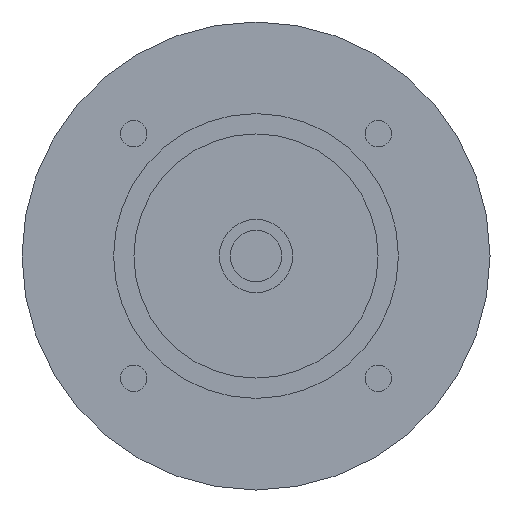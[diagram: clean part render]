
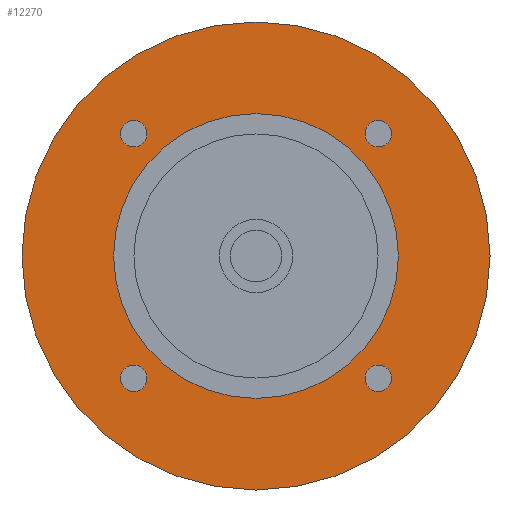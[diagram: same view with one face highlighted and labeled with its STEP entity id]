
A CAD part, left-side view. The second image highlights one B-rep face of the part: STEP entity #12270.
In plain terms, the highlighted planar face has unit normal (-1, 0, 0) as drawn and (0, 0, -1) by its records, which use the part's own axes.
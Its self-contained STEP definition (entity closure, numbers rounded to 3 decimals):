
#9110=CARTESIAN_POINT('',(57.5,0.,-47.001));
#9120=VERTEX_POINT('',#9110);
#9150=CARTESIAN_POINT('',(0.,0.,-47.001));
#9160=DIRECTION('',(0.,0.,-1.));
#9170=DIRECTION('',(0.,-1.,0.));
#9180=AXIS2_PLACEMENT_3D('',#9150,#9160,#9170);
#9190=CIRCLE('',#9180,57.5);
#9200=CARTESIAN_POINT('',(0.,-57.5,-47.001));
#9210=VERTEX_POINT('',#9200);
#9220=EDGE_CURVE('',#9120,#9210,#9190,.T.);
#9240=CARTESIAN_POINT('',(-57.5,0.,-47.001));
#9250=VERTEX_POINT('',#9240);
#9260=EDGE_CURVE('',#9210,#9250,#9190,.T.);
#11240=CARTESIAN_POINT('',(-26.802,30.052,-47.001));
#11250=VERTEX_POINT('',#11240);
#11280=CARTESIAN_POINT('',(-30.052,30.052,-47.001));
#11290=DIRECTION('',(0.,0.,-1.));
#11300=DIRECTION('',(-1.,0.,0.));
#11310=AXIS2_PLACEMENT_3D('',#11280,#11290,#11300);
#11320=CIRCLE('',#11310,3.25);
#11330=CARTESIAN_POINT('',(-33.302,30.052,-47.001));
#11340=VERTEX_POINT('',#11330);
#11350=EDGE_CURVE('',#11340,#11250,#11320,.T.);
#11470=CARTESIAN_POINT('',(0.,0.,-47.001));
#11480=DIRECTION('',(0.,0.,-1.));
#11490=DIRECTION('',(1.,0.,0.));
#11500=AXIS2_PLACEMENT_3D('',#11470,#11480,#11490);
#11510=PLANE('',#11500);
#11520=CARTESIAN_POINT('',(30.052,30.052,-47.001));
#11530=DIRECTION('',(0.,0.,-1.));
#11540=DIRECTION('',(0.,1.,0.));
#11550=AXIS2_PLACEMENT_3D('',#11520,#11530,#11540);
#11560=CIRCLE('',#11550,3.25);
#11570=CARTESIAN_POINT('',(30.052,33.302,-47.001));
#11580=VERTEX_POINT('',#11570);
#11590=CARTESIAN_POINT('',(30.052,26.802,-47.001));
#11600=VERTEX_POINT('',#11590);
#11610=EDGE_CURVE('',#11580,#11600,#11560,.T.);
#11620=ORIENTED_EDGE('',*,*,#11610,.F.);
#11630=EDGE_CURVE('',#11600,#11580,#11560,.T.);
#11640=ORIENTED_EDGE('',*,*,#11630,.F.);
#11650=EDGE_LOOP('',(#11640,#11620));
#11660=FACE_BOUND('',#11650,.T.);
#11670=ORIENTED_EDGE('',*,*,#11350,.F.);
#11680=EDGE_CURVE('',#11250,#11340,#11320,.T.);
#11690=ORIENTED_EDGE('',*,*,#11680,.F.);
#11700=EDGE_LOOP('',(#11690,#11670));
#11710=FACE_BOUND('',#11700,.T.);
#11720=CARTESIAN_POINT('',(-30.052,-30.052,-47.001))
;
#11730=DIRECTION('',(0.,0.,-1.));
#11740=DIRECTION('',(0.,-1.,0.));
#11750=AXIS2_PLACEMENT_3D('',#11720,#11730,#11740);
#11760=CIRCLE('',#11750,3.25);
#11770=CARTESIAN_POINT('',(-30.052,-33.302,-47.001))
;
#11780=VERTEX_POINT('',#11770);
#11790=CARTESIAN_POINT('',(-30.052,-26.802,-47.001))
;
#11800=VERTEX_POINT('',#11790);
#11810=EDGE_CURVE('',#11780,#11800,#11760,.T.);
#11820=ORIENTED_EDGE('',*,*,#11810,.F.);
#11830=EDGE_CURVE('',#11800,#11780,#11760,.T.);
#11840=ORIENTED_EDGE('',*,*,#11830,.F.);
#11850=EDGE_LOOP('',(#11840,#11820));
#11860=FACE_BOUND('',#11850,.T.);
#11870=CARTESIAN_POINT('',(0.,0.,
-47.001));
#11880=DIRECTION('',(0.,0.,1.));
#11890=DIRECTION('',(0.,1.,0.));
#11900=AXIS2_PLACEMENT_3D('',#11870,#11880,#11890);
#11910=CIRCLE('',#11900,35.);
#11920=CARTESIAN_POINT('',(-35.,0.,-47.001));
#11930=VERTEX_POINT('',#11920);
#11940=CARTESIAN_POINT('',(35.,0.,-47.001));
#11950=VERTEX_POINT('',#11940);
#11960=EDGE_CURVE('',#11930,#11950,#11910,.T.);
#11970=ORIENTED_EDGE('',*,*,#11960,.T.);
#11980=CARTESIAN_POINT('',(0.,35.,-47.001));
#11990=VERTEX_POINT('',#11980);
#12000=EDGE_CURVE('',#11990,#11930,#11910,.T.);
#12010=ORIENTED_EDGE('',*,*,#12000,.T.);
#12020=EDGE_CURVE('',#11950,#11990,#11910,.T.);
#12030=ORIENTED_EDGE('',*,*,#12020,.T.);
#12040=EDGE_LOOP('',(#12030,#12010,#11970));
#12050=FACE_BOUND('',#12040,.T.);
#12060=CARTESIAN_POINT('',(30.052,-30.052,-47.001));
#12070=DIRECTION('',(0.,0.,-1.));
#12080=DIRECTION('',(1.,0.,0.));
#12090=AXIS2_PLACEMENT_3D('',#12060,#12070,#12080);
#12100=CIRCLE('',#12090,3.25);
#12110=CARTESIAN_POINT('',(33.302,-30.052,-47.001));
#12120=VERTEX_POINT('',#12110);
#12130=CARTESIAN_POINT('',(26.802,-30.052,-47.001));
#12140=VERTEX_POINT('',#12130);
#12150=EDGE_CURVE('',#12120,#12140,#12100,.T.);
#12160=ORIENTED_EDGE('',*,*,#12150,.F.);
#12170=EDGE_CURVE('',#12140,#12120,#12100,.T.);
#12180=ORIENTED_EDGE('',*,*,#12170,.F.);
#12190=EDGE_LOOP('',(#12180,#12160));
#12200=FACE_BOUND('',#12190,.T.);
#12210=EDGE_CURVE('',#9250,#9120,#9190,.T.);
#12220=ORIENTED_EDGE('',*,*,#12210,.T.);
#12230=ORIENTED_EDGE('',*,*,#9260,.T.);
#12240=ORIENTED_EDGE('',*,*,#9220,.T.);
#12250=EDGE_LOOP('',(#12240,#12230,#12220));
#12260=FACE_OUTER_BOUND('',#12250,.T.);
#12270=ADVANCED_FACE('',(#11660,#11710,#11860,#12050,#12200,#12260),
#11510,.T.);
